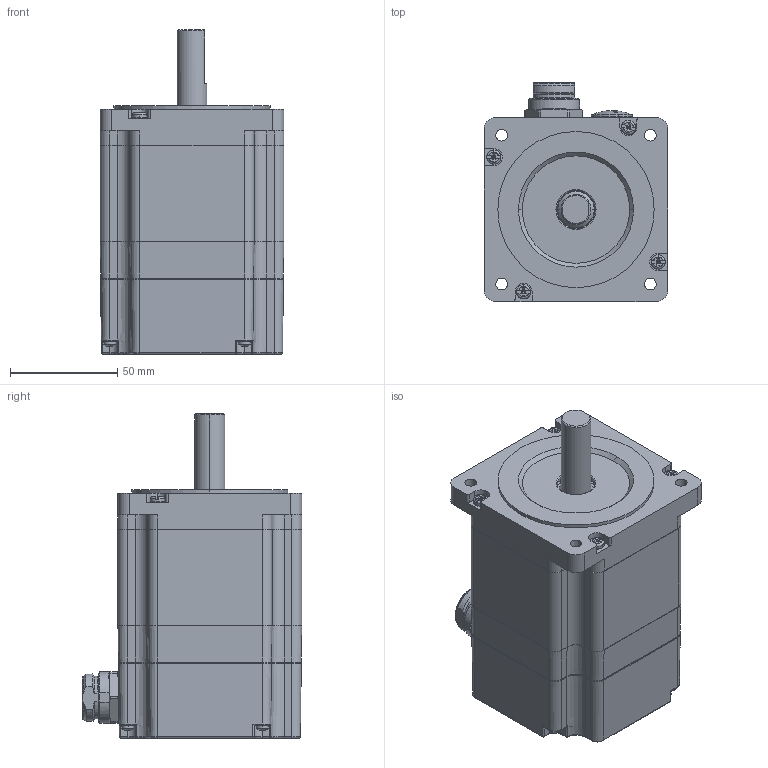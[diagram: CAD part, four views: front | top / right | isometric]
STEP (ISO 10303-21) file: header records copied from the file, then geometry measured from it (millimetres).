
FILE_DESCRIPTION (( 'STEP AP214' ), '1' );
FILE_NAME ('M86SH80-T-C.STEP', '2025-05-24T08:44:24', ( '' ), ( '' ), 'SwSTEP 2.0', 'SolidWorks 2019', '' );
FILE_SCHEMA (( 'AUTOMOTIVE_DESIGN' ));
Length unit declared in the file: millimetre
Products named in the file (1): M86SH80-T-C
Bounding box: 85.9 x 102.59 x 151.5 mm (x, y, z)
Volume: 435639 mm3; surface area: 164384.8 mm2
Topology: 31 solids, 31 shells, 1642 faces, 4129 edges, 2646 vertices
Faces by surface type: plane 682, cylinder 434, cone 215, bspline 179, torus 116, sphere 16
Entity records: 76127 total; most frequent: CARTESIAN_POINT 18513, ORIENTED_EDGE 8224, DIRECTION 8056, EDGE_CURVE 4112, AXIS2_PLACEMENT_3D 3050, VERTEX_POINT 2646, VECTOR 1956, LINE 1956
